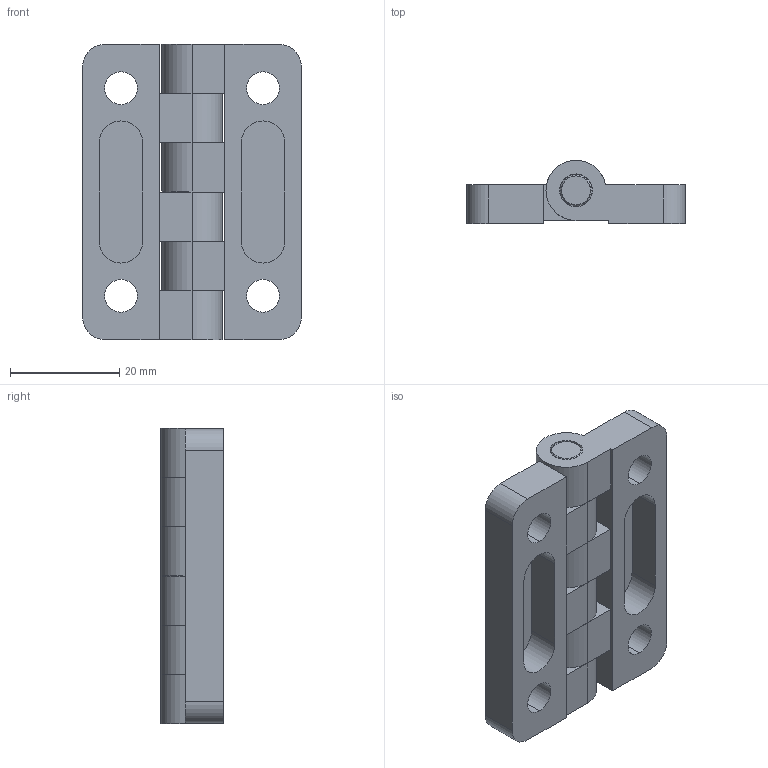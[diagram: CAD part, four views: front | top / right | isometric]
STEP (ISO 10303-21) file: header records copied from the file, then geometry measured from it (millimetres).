
FILE_DESCRIPTION (( 'STEP AP214' ), '1' );
FILE_NAME ('SK2-016B-1.STEP', '2020-04-15T06:47:12', ( 'admin' ), ( 'Microsoft' ), 'SwSTEP 2.0', 'SolidWorks 2018', '' );
FILE_SCHEMA (( 'AUTOMOTIVE_DESIGN' ));
Length unit declared in the file: millimetre
Products named in the file (3): SK2-016B-1-F2; SK2-016B-1-F1; SK2-016B-1
Assembly tree (3 placements, depth 2):
  SK2-016B-1
    SK2-016B-1-F1  x2
    SK2-016B-1-F2
Bounding box: 40 x 11.5 x 54 mm (x, y, z)
Volume: 12748.9 mm3; surface area: 10185 mm2
Topology: 3 solids, 3 shells, 180 faces, 456 edges, 284 vertices
Faces by surface type: plane 132, cylinder 36, cone 12
Entity records: 4351 total; most frequent: CARTESIAN_POINT 865, ORIENTED_EDGE 710, DIRECTION 697, EDGE_CURVE 355, AXIS2_PLACEMENT_3D 242, VERTEX_POINT 218, VECTOR 213, LINE 213
